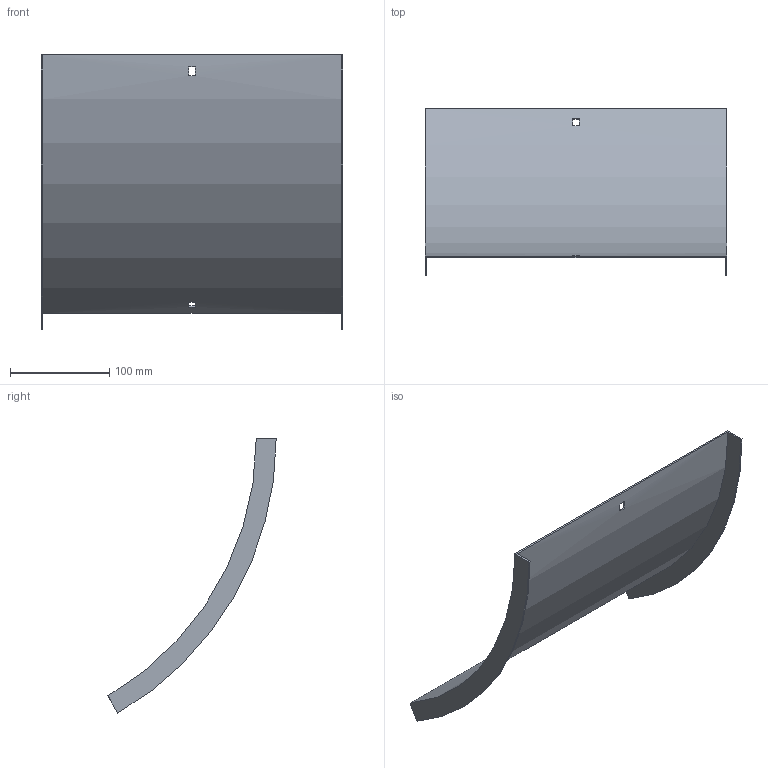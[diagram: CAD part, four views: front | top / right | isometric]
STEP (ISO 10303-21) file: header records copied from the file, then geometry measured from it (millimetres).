
FILE_DESCRIPTION (( 'STEP AP214' ), '1' );
FILE_NAME ('B2X40N3R300X.step', '2025-03-20T09:44:34', ( '' ), ( '' ), 'SwSTEP 2.0', 'SolidWorks 2023', '' );
FILE_SCHEMA (( 'AUTOMOTIVE_DESIGN' ));
Length unit declared in the file: millimetre
Products named in the file (1): B2X40N3R300X
Bounding box: 303 x 169.25 x 275.83 mm (x, y, z)
Volume: 160226.1 mm3; surface area: 215746.2 mm2
Topology: 1 solids, 1 shells, 18 faces, 48 edges, 32 vertices
Faces by surface type: plane 14, cylinder 4
Entity records: 599 total; most frequent: DIRECTION 102, CARTESIAN_POINT 99, ORIENTED_EDGE 96, EDGE_CURVE 48, AXIS2_PLACEMENT_3D 35, VERTEX_POINT 32, VECTOR 32, LINE 32
